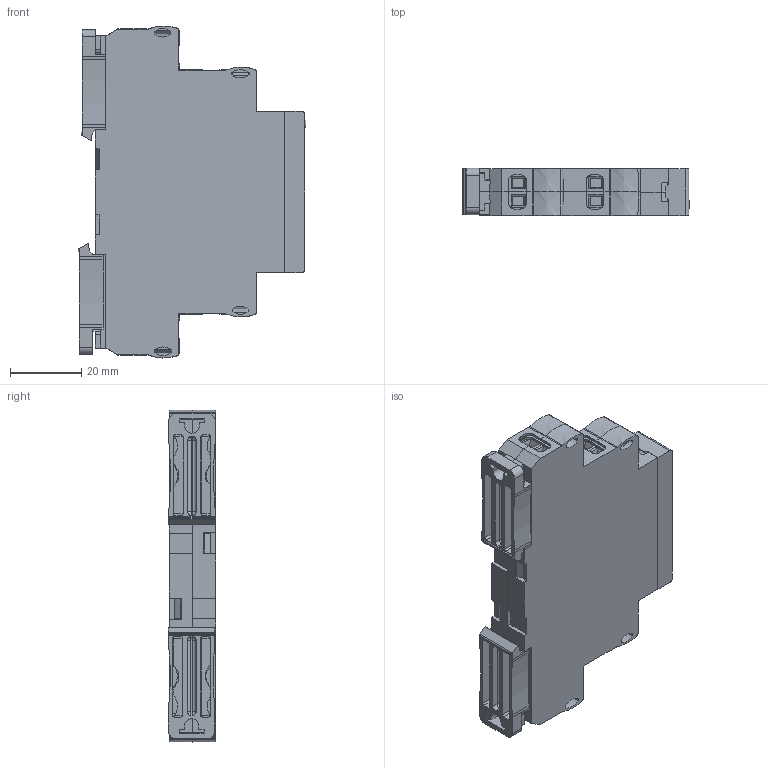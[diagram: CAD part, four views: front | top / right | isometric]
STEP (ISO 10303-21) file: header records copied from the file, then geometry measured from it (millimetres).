
FILE_DESCRIPTION(('STEP AP203'), '1');
FILE_NAME('ﾑ碚濱ﾌﾐﾏ-2ﾌ', '', ('UNSPECIFIED'), ('UNSPECIFIED'), 'ASCON STEP Converter 1.6', 'ASCON Math Kernel', '');
FILE_SCHEMA(('CONFIG_CONTROL_DESIGN'));
Length unit declared in the file: millimetre
Products named in the file (13): Case13-18-23mm_2step_Half_v01a_Build20140909_1552_6.5mm; Case13-18-23mm_2step_Lock_v01a_Build20140909_1552; Case13_Face; Клемма DG128-5.08-1_Џｮ гｬｮｫзｭЁо
Assembly tree (18 placements, depth 3):
  (unnamed)
    Case13-18-23mm_2step_Half_v01a_Build20140909_1552_6.5mm  x2
    Case13-18-23mm_2step_Lock_v01a_Build20140909_1552  x2
    Case13_Face
    (unnamed)  x4
      Клемма DG128-5.08-1_Џｮ гｬｮｫзｭЁо
    (unnamed)
    (unnamed)
    (unnamed)
    (unnamed)
    (unnamed)
    (unnamed)
    (unnamed)
Bounding box: 63.75 x 13.2 x 92.99 mm (x, y, z)
Volume: 20974 mm3; surface area: 36152.7 mm2
Topology: 234 solids, 235 shells, 10653 faces, 30352 edges, 20177 vertices
Faces by surface type: plane 8249, extrusion 2137, cylinder 226, cone 24, sphere 8, torus 5, bspline 4
Full cylindrical faces by diameter (mm): 1.238 x8, 2.1 x2, 3.9 x8
Entity records: 403570 total; most frequent: CARTESIAN_POINT 76611, ORIENTED_EDGE 55668, DIRECTION 41194, EDGE_CURVE 27834, VECTOR 25444, LINE 23307, VERTEX_POINT 18547, COLOUR_RGB 9979
